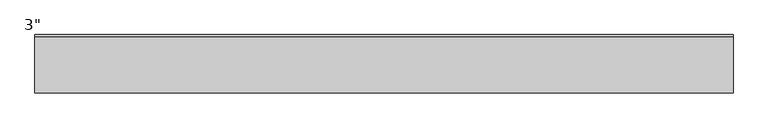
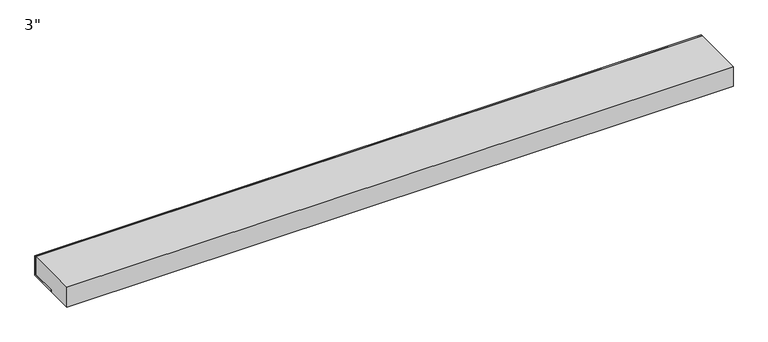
"""IFC4 building model written with IfcOpenShell, lengths in millimetres: proxy geometry."""

from ifc_helpers import new_model, si_unit, frame, origin, place, context, project, spatial, polyline, outline, extrude, source, transform, mapped, element, save


def proxy_a98eb32a(model_context):
    return source(origin(), model_context, "Body", "SweptSolid", [
        extrude(outline(polyline([(101.6, 76.2), (101.6, 0.0), (-3.175, 0.0), (-3.175, 6.35), (95.25, 6.35), (95.25, 76.2), (101.6, 76.2)])), frame((-1219.2, 0.0, 0.0), z_axis=(1.0, 0.0, 0.0), x_axis=(0.0, 1.0, 0.0)), (0.0, 0.0, 1.0), 2438.4),
        extrude(outline(polyline([(-101.6, 0.0), (-101.6, 76.2), (95.25, 76.2), (95.25, 6.35), (-3.175, 6.35), (-3.175, 0.0), (-101.6, 0.0)])), frame((-1219.2, 0.0, 0.0), z_axis=(1.0, 0.0, 0.0), x_axis=(0.0, 1.0, 0.0)), (0.0, 0.0, 1.0), 2438.4),
    ])


if __name__ == "__main__":
    model = new_model("IFC4")
    model_context = context("Model", 3, world=origin())
    ifc_project = project(units=[si_unit("LENGTHUNIT", "METRE", prefix="MILLI")], contexts=[model_context])
    site = spatial("IfcSite", under=ifc_project)
    building = spatial("IfcBuilding", under=site)
    placement = place(None, origin())
    proxy_shape = proxy_a98eb32a(model_context)
    element("IfcBuildingElementProxy", 1, Name="Durabond Generic Model Equalite Select Boundary Board : 3\"", ObjectType="Durabond Generic Model Equalite Select Boundary Board : 3\"", at=placement, inside=building, context=model_context, shape_type="MappedRepresentation", body=[
        mapped(proxy_shape, transform((0.0, 0.0, 0.0), x_axis=(1.0, 0.0, 0.0), y_axis=(0.0, 1.0, 0.0), z_axis=(0.0, 0.0, 1.0))),
    ])
    save(model, "model.ifc")
